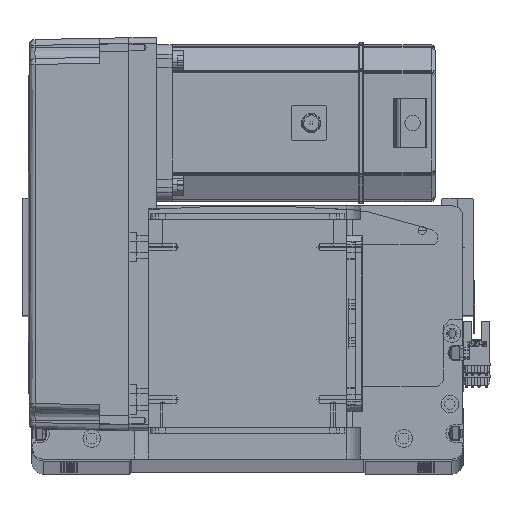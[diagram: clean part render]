
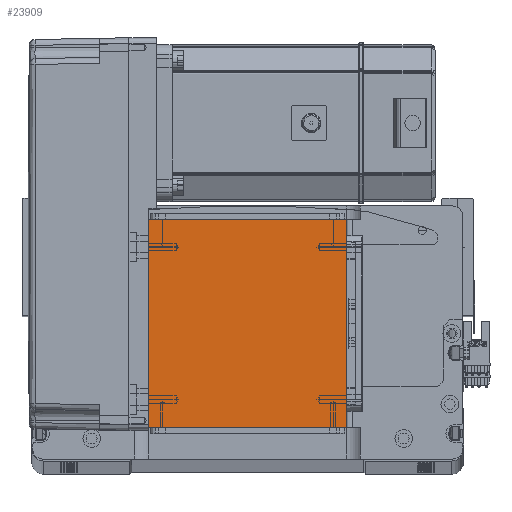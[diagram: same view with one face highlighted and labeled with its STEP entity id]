
A CAD part, top view. The second image highlights one B-rep face of the part: STEP entity #23909.
In plain terms, the highlighted planar face has unit normal (0, 0, 1).
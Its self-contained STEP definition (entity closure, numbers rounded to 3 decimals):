
#3752 = EDGE_CURVE ( 'NONE', #5876, #46452, #47859, .T. ) ;
#4318 = DIRECTION ( 'NONE',  ( -1., 0., 0. ) ) ;
#5458 = ORIENTED_EDGE ( 'NONE', *, *, #12640, .T. ) ;
#5876 = VERTEX_POINT ( 'NONE', #17212 ) ;
#9746 = EDGE_CURVE ( 'NONE', #18127, #32648, #16098, .T. ) ;
#12485 = CARTESIAN_POINT ( 'NONE',  ( -50.5, 16., 115. ) ) ;
#12640 = EDGE_CURVE ( 'NONE', #46452, #18127, #45340, .T. ) ;
#16098 = LINE ( 'NONE', #42445, #31696 ) ;
#17212 = CARTESIAN_POINT ( 'NONE',  ( 50.5, 16., 115. ) ) ;
#17720 = DIRECTION ( 'NONE',  ( 1., 0., 0. ) ) ;
#18127 = VERTEX_POINT ( 'NONE', #38728 ) ;
#19204 = FACE_OUTER_BOUND ( 'NONE', #29903, .T. ) ;
#21216 = DIRECTION ( 'NONE',  ( 1., 0., 0. ) ) ;
#21362 = ORIENTED_EDGE ( 'NONE', *, *, #3752, .T. ) ;
#22059 = DIRECTION ( 'NONE',  ( 0., 0., 1. ) ) ;
#23393 = DIRECTION ( 'NONE',  ( 0., -1., 0. ) ) ;
#23744 = EDGE_CURVE ( 'NONE', #32648, #5876, #40589, .T. ) ;
#23909 = ADVANCED_FACE ( 'NONE', ( #19204 ), #36941, .T. ) ;
#25227 = ORIENTED_EDGE ( 'NONE', *, *, #9746, .T. ) ;
#25545 = VECTOR ( 'NONE', #35674, 1000. ) ;
#29903 = EDGE_LOOP ( 'NONE', ( #25227, #36760, #21362, #5458 ) ) ;
#31696 = VECTOR ( 'NONE', #23393, 1000. ) ;
#31812 = CARTESIAN_POINT ( 'NONE',  ( 0., 0., 115. ) ) ;
#32648 = VERTEX_POINT ( 'NONE', #33458 ) ;
#33458 = CARTESIAN_POINT ( 'NONE',  ( -50.5, 16., 115. ) ) ;
#35279 = CARTESIAN_POINT ( 'NONE',  ( 50.5, 122., 115. ) ) ;
#35674 = DIRECTION ( 'NONE',  ( 0., 1., 0. ) ) ;
#36760 = ORIENTED_EDGE ( 'NONE', *, *, #23744, .T. ) ;
#36941 = PLANE ( 'NONE',  #51921 ) ;
#37927 = VECTOR ( 'NONE', #4318, 1000. ) ;
#38728 = CARTESIAN_POINT ( 'NONE',  ( -50.5, 122., 115. ) ) ;
#40589 = LINE ( 'NONE', #12485, #60685 ) ;
#42445 = CARTESIAN_POINT ( 'NONE',  ( -50.5, 122., 115. ) ) ;
#42883 = CARTESIAN_POINT ( 'NONE',  ( -50.5, 122., 115. ) ) ;
#45340 = LINE ( 'NONE', #42883, #37927 ) ;
#46452 = VERTEX_POINT ( 'NONE', #35279 ) ;
#47859 = LINE ( 'NONE', #60765, #25545 ) ;
#51921 = AXIS2_PLACEMENT_3D ( 'NONE', #31812, #22059, #17720 ) ;
#60685 = VECTOR ( 'NONE', #21216, 1000. ) ;
#60765 = CARTESIAN_POINT ( 'NONE',  ( 50.5, 122., 115. ) ) ;
